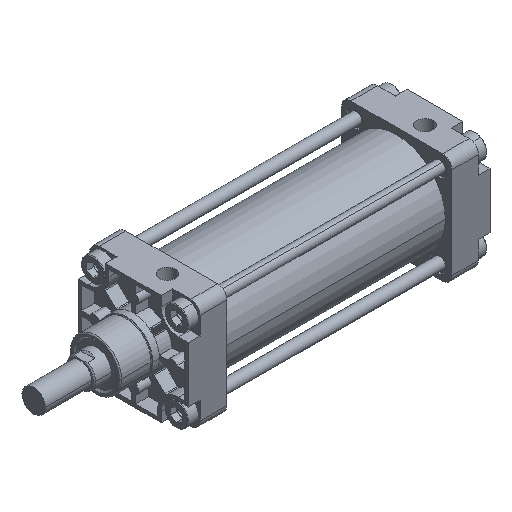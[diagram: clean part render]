
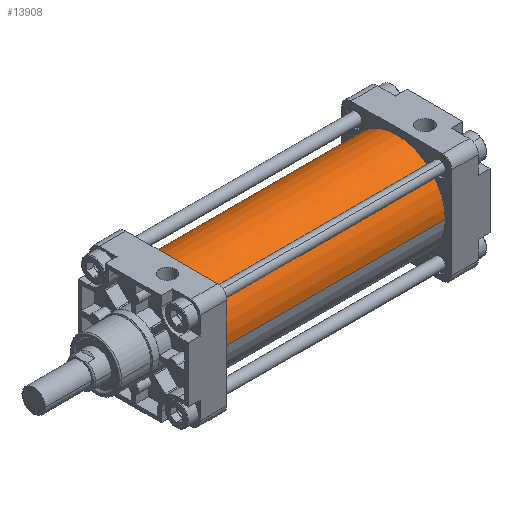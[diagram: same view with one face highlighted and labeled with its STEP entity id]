
A CAD part, isometric view. The second image highlights one B-rep face of the part: STEP entity #13908.
In plain terms, the highlighted cylindrical face has radius 42 mm (diameter 84 mm), a partial arc.
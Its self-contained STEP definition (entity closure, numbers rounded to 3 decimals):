
#13151=CARTESIAN_POINT('Vertex',(194.,-42.,0.)) ;
#13153=CARTESIAN_POINT('Vertex',(194.,42.,0.)) ;
#13156=CARTESIAN_POINT('Axis2P3D Location',(194.,0.,0.)) ;
#13866=CARTESIAN_POINT('Axis2P3D Location',(97.,0.,0.)) ;
#13871=CARTESIAN_POINT('Line Origine',(97.,-42.,0.)) ;
#13875=CARTESIAN_POINT('Vertex',(0.,-42.,0.)) ;
#13882=CARTESIAN_POINT('Vertex',(0.,42.,0.)) ;
#13885=CARTESIAN_POINT('Line Origine',(97.,42.,0.)) ;
#13897=CARTESIAN_POINT('Axis2P3D Location',(0.,0.,0.)) ;
#13157=DIRECTION('Axis2P3D Direction',(1.,0.,0.)) ;
#13867=DIRECTION('Axis2P3D Direction',(1.,0.,0.)) ;
#13868=DIRECTION('Axis2P3D XDirection',(0.,1.,0.)) ;
#13872=DIRECTION('Vector Direction',(1.,0.,0.)) ;
#13886=DIRECTION('Vector Direction',(1.,0.,0.)) ;
#13898=DIRECTION('Axis2P3D Direction',(1.,0.,0.)) ;
#13158=AXIS2_PLACEMENT_3D('Circle Axis2P3D',#13156,#13157,$) ;
#13869=AXIS2_PLACEMENT_3D('Cylinder Axis2P3D',#13866,#13867,#13868) ;
#13899=AXIS2_PLACEMENT_3D('Circle Axis2P3D',#13897,#13898,$) ;
#13903=ORIENTED_EDGE('',*,*,#13889,.F.) ;
#13904=ORIENTED_EDGE('',*,*,#13901,.T.) ;
#13905=ORIENTED_EDGE('',*,*,#13877,.T.) ;
#13906=ORIENTED_EDGE('',*,*,#13160,.F.) ;
#13873=VECTOR('Line Direction',#13872,1.) ;
#13887=VECTOR('Line Direction',#13886,1.) ;
#13908=ADVANCED_FACE('PartBody',(#13907),#13870,.T.) ;
#13159=CIRCLE('generated circle',#13158,42.) ;
#13900=CIRCLE('generated circle',#13899,42.) ;
#13870=CYLINDRICAL_SURFACE('generated cylinder',#13869,42.) ;
#13160=EDGE_CURVE('',#13154,#13152,#13159,.T.) ;
#13877=EDGE_CURVE('',#13876,#13152,#13874,.T.) ;
#13889=EDGE_CURVE('',#13883,#13154,#13888,.T.) ;
#13901=EDGE_CURVE('',#13883,#13876,#13900,.T.) ;
#13902=EDGE_LOOP('',(#13903,#13904,#13905,#13906)) ;
#13907=FACE_OUTER_BOUND('',#13902,.T.) ;
#13874=LINE('Line',#13871,#13873) ;
#13888=LINE('Line',#13885,#13887) ;
#13152=VERTEX_POINT('',#13151) ;
#13154=VERTEX_POINT('',#13153) ;
#13876=VERTEX_POINT('',#13875) ;
#13883=VERTEX_POINT('',#13882) ;
